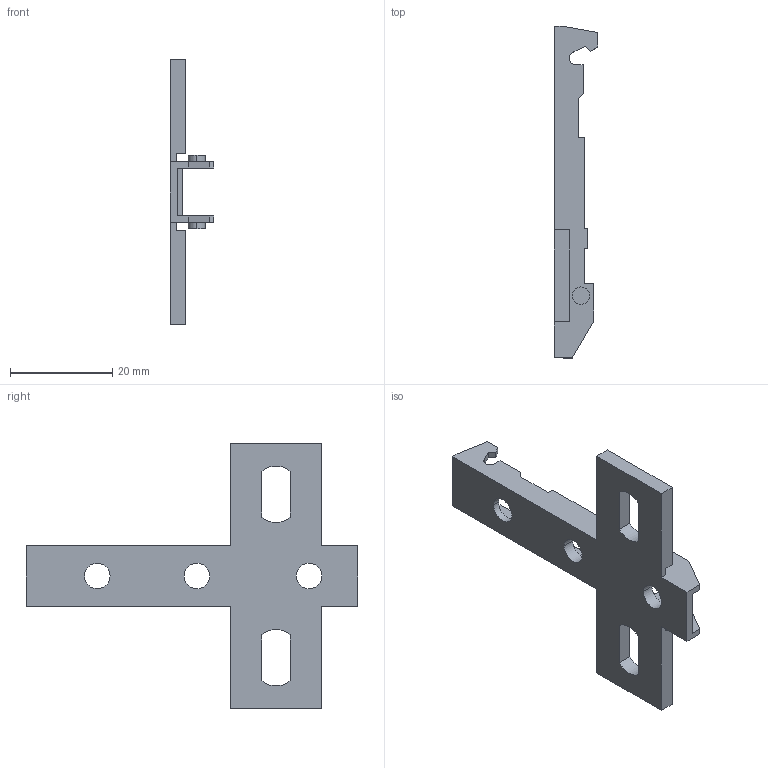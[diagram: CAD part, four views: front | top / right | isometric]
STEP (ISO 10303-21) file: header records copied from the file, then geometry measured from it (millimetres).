
FILE_DESCRIPTION (( 'STEP AP214' ), '1' );
FILE_NAME ('Eco Kreuzmontageplatte LR28_32_Euro_H-02.step', '2010-11-18T10:05:53', ( 'grass' ), ( '' ), 'SwSTEP 2.0', 'SolidWorks 2010', '' );
FILE_SCHEMA (( 'AUTOMOTIVE_DESIGN' ));
Length unit declared in the file: millimetre
Products named in the file (1): Eco Kreuzmontageplatte LR28_32_Euro_H-02
Bounding box: 8.5 x 65 x 52 mm (x, y, z)
Volume: 3702.4 mm3; surface area: 4696.1 mm2
Topology: 1 solids, 1 shells, 81 faces, 231 edges, 154 vertices
Faces by surface type: plane 65, cylinder 16
Entity records: 2671 total; most frequent: CARTESIAN_POINT 467, ORIENTED_EDGE 462, DIRECTION 427, EDGE_CURVE 231, VECTOR 199, LINE 199, VERTEX_POINT 154, AXIS2_PLACEMENT_3D 114
